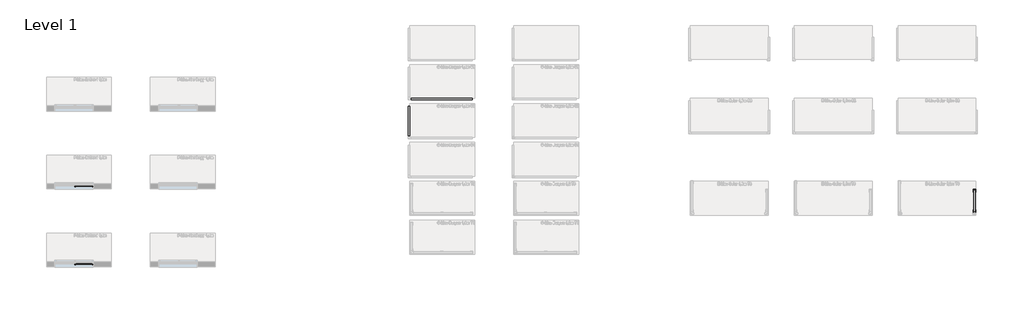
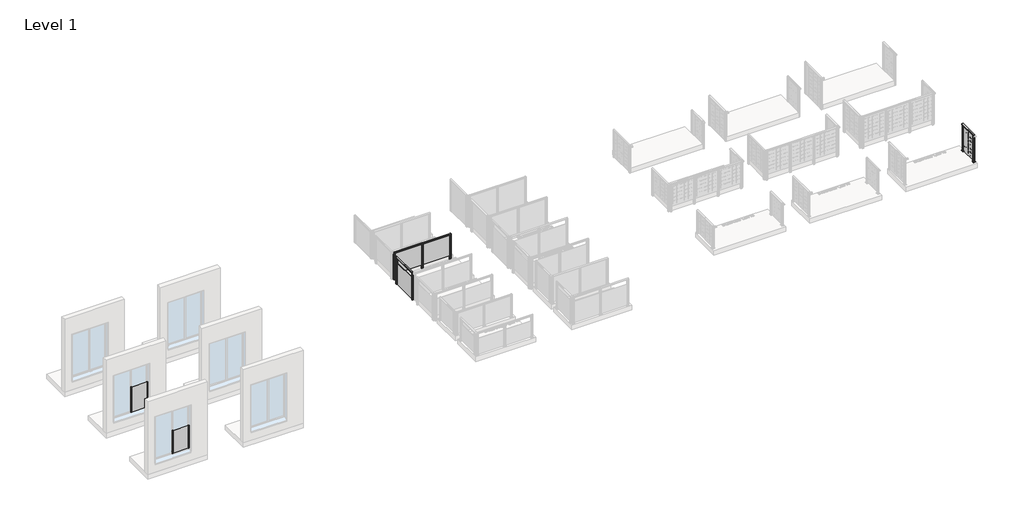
# One storey, part 27 of 66: 5 railings.
"""IFC4 building model written with IfcOpenShell, lengths in millimetres."""

from ifc_helpers import new_model, si_unit, point, frame, frame_2d, origin, origin_with_axes, place, context, project, spatial, polyline, circle_curve, trimmed, segment, composite_curve, outline, extrude, transform, mapped, element, save
from components import railing_4f81313c, railing_7a961b98

model = new_model("IFC4")

# Units and contexts
model_context = context("Model", 3, world=origin())
ifc_project = project(units=[si_unit("LENGTHUNIT", "METRE", prefix="MILLI")], contexts=[model_context])

# Site, building, storey
site = spatial("IfcSite", under=ifc_project)
building = spatial("IfcBuilding", under=site)
storey = spatial("IfcBuildingStorey", under=building, Name="Level 1", Elevation=0.0)

# Railings
placement = place(None, origin())
element("IfcRailing", 1, ObjectType="G-Line Bergen 1,0m S2", at=placement, inside=storey, context=model_context, shape_type="SweptSolid", body=[
    extrude(outline(composite_curve([segment(trimmed(circle_curve(frame_2d((942.6785502, 4465.8109342)), 57.3235687), [point((994.1390059, 4491.0658945))], [point((994.1342258, 4440.5462362))], False, "CARTESIAN"), True, "CONTINUOUS"), segment(polyline([(994.1342258, 4440.5462362), (967.0235023, 4440.5462362), (966.4415706, 4441.128168), (965.8194895, 4440.5060869), (957.2498847, 4440.5060869), (957.2498847, 4442.3110398), (980.4998829, 4442.3110398), (980.4998829, 4489.306086), (957.2498847, 4489.306086), (957.2498847, 4491.0658945), (965.9694895, 4491.0658945), (966.5842725, 4490.4511115), (967.1990555, 4491.0658945), (994.1390059, 4491.0658945)]), True, "CONTINUOUS")], self_intersect=False)), frame((0.0, 23.8815979, 0.0), z_axis=(0.0, 1.0, 0.0), x_axis=(0.0, 0.0, 1.0)), (0.0, 0.0, 1.0), 1195.0),
    extrude(outline(polyline([(4465.6306934, 1218.8815979), (4467.4943763, 1218.8815979), (4467.4943763, 23.8815979), (4465.6306934, 23.8815979), (4465.6306934, 1218.8815979)])), frame((0.0, 0.0, -200.0), z_axis=(0.0, 0.0, 1.0), x_axis=(1.0, 0.0, 0.0)), (0.0, 0.0, 1.0), 1.1703418),
    extrude(outline(polyline([(4462.1463105, 1218.8815979), (4470.9063105, 1218.8815979), (4470.9063105, 23.8815979), (4462.1463105, 23.8815979), (4462.1463105, 1218.8815979)])), frame((0.0, 0.0, -200.0), z_axis=(0.0, 0.0, 1.0), x_axis=(1.0, 0.0, 0.0)), (0.0, 0.0, 1.0), 945.0),
    extrude(outline(polyline([(4470.8721725, 23.883191), (4470.8747497, 41.3831908), (4462.1147498, 41.3844809), (4462.1121726, 23.8844811), (4444.0573652, 23.88714), (4444.0616532, 53.004127), (4444.9400753, 53.8822904), (4444.021743, 54.9201583), (4444.0260089, 83.8871452), (4462.1210087, 83.8844804), (4462.1184315, 66.3844806), (4470.8784314, 66.3831905), (4470.8810086, 83.8831903), (4488.9859597, 83.880524), (4488.9816865, 54.8640485), (4487.9932969, 53.87595), (4489.0214382, 52.8475058), (4489.0171723, 23.8805188), (4470.8721725, 23.883191)])), frame((0.0, 0.0, -202.0233958), z_axis=(0.0, 0.0, 1.0), x_axis=(1.0, 0.0, 0.0)), (0.0, 0.0, 1.0), 2.0),
    extrude(outline(composite_curve([segment(trimmed(circle_curve(frame_2d((0.0, 12.0)), 12.0), [point((0.0, 23.9999999))], [point((0.0, 0.0))], False, "CARTESIAN"), True, "CONTINUOUS"), segment(trimmed(circle_curve(frame_2d((0.0, 12.0)), 12.0), [point((0.0, 0.0))], [point((0.0, 23.9999999))], False, "CARTESIAN"), True, "CONTINUOUS")], self_intersect=False)), frame((4444.0668454, 65.8906355, -175.0), z_axis=(-0.9999999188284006, 0.0004029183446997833, 0.0), x_axis=(0.0, 0.0, -1.0)), (0.0, 0.0, 1.0), 3.0757477),
    extrude(outline(composite_curve([segment(trimmed(circle_curve(frame_2d((0.0, 12.0)), 12.0), [point((0.0, 23.9999999))], [point((0.0, 0.0))], False, "CARTESIAN"), True, "CONTINUOUS"), segment(trimmed(circle_curve(frame_2d((0.0, 12.0)), 12.0), [point((0.0, 0.0))], [point((0.0, 23.9999999))], False, "CARTESIAN"), True, "CONTINUOUS")], self_intersect=False)), frame((4444.0668454, 65.8906355, -50.0), z_axis=(-0.9999999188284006, 0.0004029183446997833, 0.0), x_axis=(0.0, 0.0, -1.0)), (0.0, 0.0, 1.0), 3.0757477),
    extrude(outline(polyline([(4470.8721725, 23.883191), (4470.8747497, 41.3831908), (4462.1147498, 41.3844809), (4462.1121726, 23.8844811), (4444.0573652, 23.88714), (4444.0616532, 53.004127), (4444.9400753, 53.8822904), (4444.021743, 54.9201583), (4444.0260089, 83.8871452), (4462.1210087, 83.8844804), (4462.1184315, 66.3844806), (4470.8784314, 66.3831905), (4470.8810086, 83.8831903), (4488.9859597, 83.880524), (4488.9816865, 54.8640485), (4487.9932969, 53.87595), (4489.0214382, 52.8475058), (4489.0171723, 23.8805188), (4470.8721725, 23.883191)]), holes=[polyline([(4446.0202949, 62.6808129), (4446.0202949, 45.0868512), (4487.0228863, 45.0868512), (4487.0228863, 62.6808129), (4446.0202949, 62.6808129)]), polyline([(4472.878181, 81.8808127), (4472.878181, 64.682896), (4487.0257139, 64.682896), (4487.0257139, 81.8808127), (4472.878181, 81.8808127)]), polyline([(4446.0202949, 81.884775), (4446.0202949, 64.6868513), (4460.1207142, 64.6868513), (4460.1207142, 81.884775), (4446.0202949, 81.884775)]), polyline([(4472.872467, 43.0808132), (4472.872467, 25.8828965), (4487.0199999, 25.8828965), (4487.0199999, 43.0808132), (4472.872467, 43.0808132)]), polyline([(4445.9674673, 43.0847754), (4445.9674673, 25.8868587), (4460.1150002, 25.8868587), (4460.1150002, 43.0847754), (4445.9674673, 43.0847754)])]), frame((0.0, 0.0, -200.0), z_axis=(0.0, 0.0, 1.0), x_axis=(1.0, 0.0, 0.0)), (0.0, 0.0, 1.0), 1181.0),
    extrude(outline(polyline([(4470.8721725, 1158.883191), (4470.8747497, 1176.3831908), (4462.1147498, 1176.3844809), (4462.1121726, 1158.8844811), (4444.0573652, 1158.88714), (4444.0616532, 1188.004127), (4444.9400753, 1188.8822904), (4444.021743, 1189.9201583), (4444.0260089, 1218.8871452), (4462.1210087, 1218.8844804), (4462.1184315, 1201.3844806), (4470.8784314, 1201.3831905), (4470.8810086, 1218.8831903), (4488.9859597, 1218.880524), (4488.9816865, 1189.8640485), (4487.9932969, 1188.87595), (4489.0214382, 1187.8475058), (4489.0171723, 1158.8805188), (4470.8721725, 1158.883191)])), frame((0.0, 0.0, -202.0233958), z_axis=(0.0, 0.0, 1.0), x_axis=(1.0, 0.0, 0.0)), (0.0, 0.0, 1.0), 2.0),
    extrude(outline(composite_curve([segment(trimmed(circle_curve(frame_2d((0.0, 12.0)), 12.0), [point((0.0, 23.9999999))], [point((0.0, 0.0))], False, "CARTESIAN"), True, "CONTINUOUS"), segment(trimmed(circle_curve(frame_2d((0.0, 12.0)), 12.0), [point((0.0, 0.0))], [point((0.0, 23.9999999))], False, "CARTESIAN"), True, "CONTINUOUS")], self_intersect=False)), frame((4444.0668454, 1200.8906355, -175.0), z_axis=(-0.9999999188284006, 0.0004029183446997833, 0.0), x_axis=(0.0, 0.0, -1.0)), (0.0, 0.0, 1.0), 3.0757477),
    extrude(outline(composite_curve([segment(trimmed(circle_curve(frame_2d((0.0, 12.0)), 12.0), [point((0.0, 23.9999999))], [point((0.0, 0.0))], False, "CARTESIAN"), True, "CONTINUOUS"), segment(trimmed(circle_curve(frame_2d((0.0, 12.0)), 12.0), [point((0.0, 0.0))], [point((0.0, 23.9999999))], False, "CARTESIAN"), True, "CONTINUOUS")], self_intersect=False)), frame((4444.0668454, 1200.8906355, -50.0), z_axis=(-0.9999999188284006, 0.0004029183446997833, 0.0), x_axis=(0.0, 0.0, -1.0)), (0.0, 0.0, 1.0), 3.0757477),
    extrude(outline(polyline([(4470.8721725, 1158.883191), (4470.8747497, 1176.3831908), (4462.1147498, 1176.3844809), (4462.1121726, 1158.8844811), (4444.0573652, 1158.88714), (4444.0616532, 1188.004127), (4444.9400753, 1188.8822904), (4444.021743, 1189.9201583), (4444.0260089, 1218.8871452), (4462.1210087, 1218.8844804), (4462.1184315, 1201.3844806), (4470.8784314, 1201.3831905), (4470.8810086, 1218.8831903), (4488.9859597, 1218.880524), (4488.9816865, 1189.8640485), (4487.9932969, 1188.87595), (4489.0214382, 1187.8475058), (4489.0171723, 1158.8805188), (4470.8721725, 1158.883191)]), holes=[polyline([(4446.0202949, 1197.6808129), (4446.0202949, 1180.0868512), (4487.0228863, 1180.0868512), (4487.0228863, 1197.6808129), (4446.0202949, 1197.6808129)]), polyline([(4472.878181, 1216.8808127), (4472.878181, 1199.682896), (4487.0257139, 1199.682896), (4487.0257139, 1216.8808127), (4472.878181, 1216.8808127)]), polyline([(4446.0202949, 1216.884775), (4446.0202949, 1199.6868513), (4460.1207142, 1199.6868513), (4460.1207142, 1216.884775), (4446.0202949, 1216.884775)]), polyline([(4472.872467, 1178.0808132), (4472.872467, 1160.8828965), (4487.0199999, 1160.8828965), (4487.0199999, 1178.0808132), (4472.872467, 1178.0808132)]), polyline([(4445.9674673, 1178.0847754), (4445.9674673, 1160.8868587), (4460.1150002, 1160.8868587), (4460.1150002, 1178.0847754), (4445.9674673, 1178.0847754)])]), frame((0.0, 0.0, -200.0), z_axis=(0.0, 0.0, 1.0), x_axis=(1.0, 0.0, 0.0)), (0.0, 0.0, 1.0), 1181.0),
])
element("IfcRailing", 2, ObjectType="G-Line Bergen 1,0m S3", at=placement, inside=storey, context=model_context, shape_type="SweptSolid", body=[
    extrude(outline(composite_curve([segment(polyline([(1513.4211819, 994.1390059), (1513.4211819, 967.1990555), (1512.8063989, 966.5842725), (1513.4211819, 965.9694895), (1513.4211819, 957.2498847), (1511.6613734, 957.2498847), (1511.6613734, 980.4998829), (1464.6663272, 980.4998829), (1464.6663272, 957.2498847), (1462.8613743, 957.2498847), (1462.8613743, 965.8194895), (1463.4834554, 966.4415706), (1462.9015237, 967.0235023), (1462.9015237, 994.1342258)]), True, "CONTINUOUS"), segment(trimmed(circle_curve(frame_2d((1488.1662216, 942.6785502)), 57.3235687), [point((1462.9015237, 994.1342258))], [point((1513.4211819, 994.1390059))], False, "CARTESIAN"), True, "CONTINUOUS")], self_intersect=False)), frame((4501.5263105, 0.0, 0.0), z_axis=(1.0, 0.0, 0.0), x_axis=(0.0, 1.0, 0.0)), (0.0, 0.0, 1.0), 2395.0),
    extrude(outline(polyline([(4501.5263105, 1484.5015979), (4501.5263105, 1493.2615979), (6896.5263105, 1493.2615979), (6896.5263105, 1484.5015979), (4501.5263105, 1484.5015979)])), frame((0.0, 0.0, 28.0), z_axis=(0.0, 0.0, 1.0), x_axis=(1.0, 0.0, 0.0)), (0.0, 0.0, 1.0), 952.0),
    extrude(outline(polyline([(5729.0247174, 1493.2274599), (5711.5247176, 1493.2300371), (5711.5234275, 1484.4700372), (5729.0234273, 1484.46746), (5729.0207684, 1466.4126526), (5699.9037815, 1466.4169406), (5699.025618, 1467.2953627), (5697.9877501, 1466.3770304), (5669.0207632, 1466.3812963), (5669.023428, 1484.4762961), (5686.5234278, 1484.4737189), (5686.5247179, 1493.2337188), (5669.0247181, 1493.236296), (5669.0273844, 1511.3412471), (5698.0438599, 1511.3369739), (5699.0319584, 1510.3485843), (5700.0604026, 1511.3767256), (5729.0273896, 1511.3724597), (5729.0247174, 1493.2274599)])), frame((0.0, 0.0, -202.0233958), z_axis=(0.0, 0.0, 1.0), x_axis=(1.0, 0.0, 0.0)), (0.0, 0.0, 1.0), 2.0),
    extrude(outline(composite_curve([segment(trimmed(circle_curve(frame_2d((0.0, 12.0000001)), 12.0), [point((0.0, 24.0))], [point((0.0, 0.0))], False, "CARTESIAN"), True, "CONTINUOUS"), segment(trimmed(circle_curve(frame_2d((0.0, 12.0000001)), 12.0), [point((0.0, 0.0))], [point((0.0, 24.0))], False, "CARTESIAN"), True, "CONTINUOUS")], self_intersect=False)), frame((5687.0160336, 1463.3463854, -175.0), z_axis=(0.00040291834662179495, 0.9999999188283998, 0.0), x_axis=(0.0, 0.0, 1.0)), (0.0, 0.0, 1.0), 3.0757477),
    extrude(outline(composite_curve([segment(trimmed(circle_curve(frame_2d((0.0, 12.0000001)), 12.0), [point((0.0, 24.0))], [point((0.0, 0.0))], False, "CARTESIAN"), True, "CONTINUOUS"), segment(trimmed(circle_curve(frame_2d((0.0, 12.0000001)), 12.0), [point((0.0, 0.0))], [point((0.0, 24.0))], False, "CARTESIAN"), True, "CONTINUOUS")], self_intersect=False)), frame((5687.0160336, 1463.3463854, -50.0), z_axis=(0.00040291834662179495, 0.9999999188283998, 0.0), x_axis=(0.0, 0.0, 1.0)), (0.0, 0.0, 1.0), 3.0757477),
    extrude(outline(polyline([(5729.0247174, 1493.2274599), (5711.5247176, 1493.2300371), (5711.5234275, 1484.4700372), (5729.0234273, 1484.46746), (5729.0207684, 1466.4126526), (5699.9037815, 1466.4169406), (5699.025618, 1467.2953627), (5697.9877501, 1466.3770304), (5669.0207632, 1466.3812963), (5669.023428, 1484.4762961), (5686.5234278, 1484.4737189), (5686.5247179, 1493.2337188), (5669.0247181, 1493.236296), (5669.0273844, 1511.3412471), (5698.0438599, 1511.3369739), (5699.0319584, 1510.3485843), (5700.0604026, 1511.3767256), (5729.0273896, 1511.3724597), (5729.0247174, 1493.2274599)]), holes=[polyline([(5690.2270955, 1468.3755823), (5707.8210573, 1468.3755823), (5707.8210573, 1509.3781738), (5690.2270955, 1509.3781738), (5690.2270955, 1468.3755823)]), polyline([(5671.0270957, 1495.2334684), (5688.2250124, 1495.2334684), (5688.2250124, 1509.3810013), (5671.0270957, 1509.3810013), (5671.0270957, 1495.2334684)]), polyline([(5671.0231335, 1468.3755823), (5688.2210571, 1468.3755823), (5688.2210571, 1482.4760016), (5671.0231335, 1482.4760016), (5671.0231335, 1468.3755823)]), polyline([(5709.8270953, 1495.2277544), (5727.025012, 1495.2277544), (5727.025012, 1509.3752873), (5709.8270953, 1509.3752873), (5709.8270953, 1495.2277544)]), polyline([(5709.823133, 1468.3227547), (5727.0210497, 1468.3227547), (5727.0210497, 1482.4702876), (5709.823133, 1482.4702876), (5709.823133, 1468.3227547)])]), frame((0.0, 0.0, -200.0), z_axis=(0.0, 0.0, 1.0), x_axis=(1.0, 0.0, 0.0)), (0.0, 0.0, 1.0), 1181.0),
    extrude(outline(polyline([(6896.5247174, 1493.2274599), (6879.0247176, 1493.2300371), (6879.0234275, 1484.4700372), (6896.5234273, 1484.46746), (6896.5207684, 1466.4126526), (6867.4037815, 1466.4169406), (6866.525618, 1467.2953627), (6865.4877501, 1466.3770304), (6836.5207632, 1466.3812963), (6836.523428, 1484.4762961), (6854.0234278, 1484.4737189), (6854.0247179, 1493.2337188), (6836.5247181, 1493.236296), (6836.5273844, 1511.3412471), (6865.5438599, 1511.3369739), (6866.5319584, 1510.3485843), (6867.5604026, 1511.3767256), (6896.5273896, 1511.3724597), (6896.5247174, 1493.2274599)])), frame((0.0, 0.0, -202.0233958), z_axis=(0.0, 0.0, 1.0), x_axis=(1.0, 0.0, 0.0)), (0.0, 0.0, 1.0), 2.0),
    extrude(outline(composite_curve([segment(trimmed(circle_curve(frame_2d((0.0, 12.0000001)), 12.0), [point((0.0, 24.0))], [point((0.0, 0.0))], False, "CARTESIAN"), True, "CONTINUOUS"), segment(trimmed(circle_curve(frame_2d((0.0, 12.0000001)), 12.0), [point((0.0, 0.0))], [point((0.0, 24.0))], False, "CARTESIAN"), True, "CONTINUOUS")], self_intersect=False)), frame((6854.5160336, 1463.3463854, -175.0), z_axis=(0.00040291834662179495, 0.9999999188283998, 0.0), x_axis=(0.0, 0.0, 1.0)), (0.0, 0.0, 1.0), 3.0757477),
    extrude(outline(composite_curve([segment(trimmed(circle_curve(frame_2d((0.0, 12.0000001)), 12.0), [point((0.0, 24.0))], [point((0.0, 0.0))], False, "CARTESIAN"), True, "CONTINUOUS"), segment(trimmed(circle_curve(frame_2d((0.0, 12.0000001)), 12.0), [point((0.0, 0.0))], [point((0.0, 24.0))], False, "CARTESIAN"), True, "CONTINUOUS")], self_intersect=False)), frame((6854.5160336, 1463.3463854, -50.0), z_axis=(0.00040291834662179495, 0.9999999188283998, 0.0), x_axis=(0.0, 0.0, 1.0)), (0.0, 0.0, 1.0), 3.0757477),
    extrude(outline(polyline([(6896.5247174, 1493.2274599), (6879.0247176, 1493.2300371), (6879.0234275, 1484.4700372), (6896.5234273, 1484.46746), (6896.5207684, 1466.4126526), (6867.4037815, 1466.4169406), (6866.525618, 1467.2953627), (6865.4877501, 1466.3770304), (6836.5207632, 1466.3812963), (6836.523428, 1484.4762961), (6854.0234278, 1484.4737189), (6854.0247179, 1493.2337188), (6836.5247181, 1493.236296), (6836.5273844, 1511.3412471), (6865.5438599, 1511.3369739), (6866.5319584, 1510.3485843), (6867.5604026, 1511.3767256), (6896.5273896, 1511.3724597), (6896.5247174, 1493.2274599)]), holes=[polyline([(6857.7270955, 1468.3755823), (6875.3210573, 1468.3755823), (6875.3210573, 1509.3781737), (6857.7270955, 1509.3781737), (6857.7270955, 1468.3755823)]), polyline([(6838.5270957, 1495.2334684), (6855.7250124, 1495.2334684), (6855.7250124, 1509.3810013), (6838.5270957, 1509.3810013), (6838.5270957, 1495.2334684)]), polyline([(6838.5231335, 1468.3755823), (6855.7210571, 1468.3755823), (6855.7210571, 1482.4760016), (6838.5231335, 1482.4760016), (6838.5231335, 1468.3755823)]), polyline([(6877.3270953, 1495.2277544), (6894.525012, 1495.2277544), (6894.525012, 1509.3752873), (6877.3270953, 1509.3752873), (6877.3270953, 1495.2277544)]), polyline([(6877.323133, 1468.3227547), (6894.5210497, 1468.3227547), (6894.5210497, 1482.4702876), (6877.323133, 1482.4702876), (6877.323133, 1468.3227547)])]), frame((0.0, 0.0, -200.0), z_axis=(0.0, 0.0, 1.0), x_axis=(1.0, 0.0, 0.0)), (0.0, 0.0, 1.0), 1181.0),
    extrude(outline(polyline([(4561.5247174, 1493.2274599), (4544.0247176, 1493.2300371), (4544.0234275, 1484.4700372), (4561.5234273, 1484.46746), (4561.5207684, 1466.4126526), (4532.4037815, 1466.4169406), (4531.525618, 1467.2953627), (4530.4877501, 1466.3770304), (4501.5207632, 1466.3812963), (4501.523428, 1484.4762961), (4519.0234278, 1484.4737189), (4519.0247179, 1493.2337188), (4501.5247181, 1493.236296), (4501.5273844, 1511.3412471), (4530.5438599, 1511.3369739), (4531.5319584, 1510.3485843), (4532.5604026, 1511.3767256), (4561.5273896, 1511.3724597), (4561.5247174, 1493.2274599)])), frame((0.0, 0.0, -202.0233958), z_axis=(0.0, 0.0, 1.0), x_axis=(1.0, 0.0, 0.0)), (0.0, 0.0, 1.0), 2.0),
    extrude(outline(composite_curve([segment(trimmed(circle_curve(frame_2d((0.0, 12.0000001)), 12.0), [point((0.0, 24.0))], [point((0.0, 0.0))], False, "CARTESIAN"), True, "CONTINUOUS"), segment(trimmed(circle_curve(frame_2d((0.0, 12.0000001)), 12.0), [point((0.0, 0.0))], [point((0.0, 24.0))], False, "CARTESIAN"), True, "CONTINUOUS")], self_intersect=False)), frame((4519.5160336, 1463.3463854, -175.0), z_axis=(0.00040291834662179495, 0.9999999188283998, 0.0), x_axis=(0.0, 0.0, 1.0)), (0.0, 0.0, 1.0), 3.0757477),
    extrude(outline(composite_curve([segment(trimmed(circle_curve(frame_2d((0.0, 12.0000001)), 12.0), [point((0.0, 24.0))], [point((0.0, 0.0))], False, "CARTESIAN"), True, "CONTINUOUS"), segment(trimmed(circle_curve(frame_2d((0.0, 12.0000001)), 12.0), [point((0.0, 0.0))], [point((0.0, 24.0))], False, "CARTESIAN"), True, "CONTINUOUS")], self_intersect=False)), frame((4519.5160336, 1463.3463854, -50.0), z_axis=(0.00040291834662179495, 0.9999999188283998, 0.0), x_axis=(0.0, 0.0, 1.0)), (0.0, 0.0, 1.0), 3.0757477),
    extrude(outline(polyline([(4561.5247174, 1493.2274599), (4544.0247176, 1493.2300371), (4544.0234275, 1484.4700372), (4561.5234273, 1484.46746), (4561.5207684, 1466.4126526), (4532.4037815, 1466.4169406), (4531.525618, 1467.2953627), (4530.4877501, 1466.3770304), (4501.5207632, 1466.3812963), (4501.523428, 1484.4762961), (4519.0234278, 1484.4737189), (4519.0247179, 1493.2337188), (4501.5247181, 1493.236296), (4501.5273844, 1511.3412471), (4530.5438599, 1511.3369739), (4531.5319584, 1510.3485843), (4532.5604026, 1511.3767256), (4561.5273896, 1511.3724597), (4561.5247174, 1493.2274599)]), holes=[polyline([(4522.7270955, 1468.3755823), (4540.3210573, 1468.3755823), (4540.3210573, 1509.3781738), (4522.7270955, 1509.3781738), (4522.7270955, 1468.3755823)]), polyline([(4503.5270957, 1495.2334684), (4520.7250124, 1495.2334684), (4520.7250124, 1509.3810013), (4503.5270957, 1509.3810013), (4503.5270957, 1495.2334684)]), polyline([(4503.5231335, 1468.3755823), (4520.7210571, 1468.3755823), (4520.7210571, 1482.4760016), (4503.5231335, 1482.4760016), (4503.5231335, 1468.3755823)]), polyline([(4542.3270953, 1495.2277544), (4559.525012, 1495.2277544), (4559.525012, 1509.3752873), (4542.3270953, 1509.3752873), (4542.3270953, 1495.2277544)]), polyline([(4542.323133, 1468.3227547), (4559.5210497, 1468.3227547), (4559.5210497, 1482.4702876), (4542.323133, 1482.4702876), (4542.323133, 1468.3227547)])]), frame((0.0, 0.0, -200.0), z_axis=(0.0, 0.0, 1.0), x_axis=(1.0, 0.0, 0.0)), (0.0, 0.0, 1.0), 1181.0),
])
element("IfcRailing", 3, ObjectType="E-Line Solar 1,2m T3 4 columns of solar elements", at=placement, inside=storey, context=model_context, shape_type="SweptSolid", body=[
    extrude(outline(composite_curve([segment(trimmed(circle_curve(frame_2d((1142.6785502, 26235.8109342)), 57.3235687), [point((1194.1390059, 26261.0658945))], [point((1194.1342258, 26210.5462362))], False, "CARTESIAN"), True, "CONTINUOUS"), segment(polyline([(1194.1342258, 26210.5462362), (1167.0235023, 26210.5462362), (1166.4415706, 26211.128168), (1165.8194895, 26210.5060869), (1157.2498847, 26210.5060869), (1157.2498847, 26212.3110398), (1180.4998829, 26212.3110398), (1180.4998829, 26259.306086), (1157.2498847, 26259.306086), (1157.2498847, 26261.0658945), (1165.9694895, 26261.0658945), (1166.5842725, 26260.4511115), (1167.1990555, 26261.0658945), (1194.1390059, 26261.0658945)]), True, "CONTINUOUS")], self_intersect=False)), frame((0.0, -2851.1184021, 0.0), z_axis=(0.0, 1.0, 0.0), x_axis=(0.0, 0.0, 1.0)), (0.0, 0.0, 1.0), 840.0),
    extrude(outline(polyline([(26232.1463105, -2011.1184021), (26240.9063105, -2011.1184021), (26240.9063105, -2851.1184021), (26232.1463105, -2851.1184021), (26232.1463105, -2011.1184021)])), frame((0.0, 0.0, 40.0), z_axis=(0.0, 0.0, 1.0), x_axis=(1.0, 0.0, 0.0)), (0.0, 0.0, 1.0), 1140.0),
    extrude(outline(polyline([(0.0, 0.0), (-16.036927, 16.036927), (-16.036927, 139.963073), (0.0, 156.0), (123.9261459, 156.0), (139.963073, 139.963073), (139.963073, 16.036927), (123.9261459, 0.0), (0.0, 0.0)])), frame((26240.0263105, -2267.6184021, 1059.4156895), z_axis=(1.0, -5.7872079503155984e-12, 0.0), x_axis=(0.0, 0.0, -1.0)), (0.0, 0.0, 1.0), 1.0),
    extrude(outline(polyline([(0.0, 0.0), (-16.036927, 16.036927), (-16.036927, 139.963073), (0.0, 156.0), (123.9261459, 156.0), (139.963073, 139.963073), (139.963073, 16.036927), (123.9261459, 0.0), (0.0, 0.0)])), frame((26240.0263105, -2428.6184021, 1059.4156895), z_axis=(1.0, -5.7872079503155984e-12, 0.0), x_axis=(0.0, 0.0, -1.0)), (0.0, 0.0, 1.0), 1.0),
    extrude(outline(polyline([(0.0, 0.0), (-16.036927, 16.036927), (-16.036927, 139.963073), (0.0, 156.0), (123.9261459, 156.0), (139.963073, 139.963073), (139.963073, 16.036927), (123.9261459, 0.0), (0.0, 0.0)])), frame((26240.0263105, -2750.6184021, 1059.4156895), z_axis=(1.0, -5.7872079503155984e-12, 0.0), x_axis=(0.0, 0.0, -1.0)), (0.0, 0.0, 1.0), 1.0),
    extrude(outline(polyline([(0.0, 0.0), (-16.036927, 16.036927), (-16.036927, 139.963073), (0.0, 156.0), (123.9261459, 156.0), (139.963073, 139.963073), (139.963073, 16.036927), (123.9261459, 0.0), (0.0, 0.0)])), frame((26240.0263105, -2589.6184021, 1059.4156895), z_axis=(1.0, -5.7872079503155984e-12, 0.0), x_axis=(0.0, 0.0, -1.0)), (0.0, 0.0, 1.0), 1.0),
    extrude(outline(polyline([(0.0, 0.0), (-16.036927, 16.036927), (-16.036927, 139.963073), (0.0, 156.0), (123.9261459, 156.0), (139.963073, 139.963073), (139.963073, 16.036927), (123.9261459, 0.0), (0.0, 0.0)])), frame((26240.0263105, -2267.6184021, 898.4156895), z_axis=(1.0, -5.7872079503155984e-12, 0.0), x_axis=(0.0, 0.0, -1.0)), (0.0, 0.0, 1.0), 1.0),
    extrude(outline(polyline([(0.0, 0.0), (-16.036927, 16.036927), (-16.036927, 139.963073), (0.0, 156.0), (123.9261459, 156.0), (139.963073, 139.963073), (139.963073, 16.036927), (123.9261459, 0.0), (0.0, 0.0)])), frame((26240.0263105, -2267.6184021, 737.4156895), z_axis=(1.0, -5.7872079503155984e-12, 0.0), x_axis=(0.0, 0.0, -1.0)), (0.0, 0.0, 1.0), 1.0),
    extrude(outline(polyline([(0.0, 0.0), (-16.036927, 16.036927), (-16.036927, 139.963073), (0.0, 156.0), (123.9261459, 156.0), (139.963073, 139.963073), (139.963073, 16.036927), (123.9261459, 0.0), (0.0, 0.0)])), frame((26240.0263105, -2267.6184021, 576.4156895), z_axis=(1.0, -5.7872079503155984e-12, 0.0), x_axis=(0.0, 0.0, -1.0)), (0.0, 0.0, 1.0), 1.0),
    extrude(outline(polyline([(0.0, 0.0), (-16.036927, 16.036927), (-16.036927, 139.963073), (0.0, 156.0), (123.9261459, 156.0), (139.963073, 139.963073), (139.963073, 16.036927), (123.9261459, 0.0), (0.0, 0.0)])), frame((26240.0263105, -2267.6184021, 415.4156895), z_axis=(1.0, -5.7872079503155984e-12, 0.0), x_axis=(0.0, 0.0, -1.0)), (0.0, 0.0, 1.0), 1.0),
    extrude(outline(polyline([(0.0, 0.0), (-16.036927, 16.036927), (-16.036927, 139.963073), (0.0, 156.0), (123.9261459, 156.0), (139.963073, 139.963073), (139.963073, 16.036927), (123.9261459, 0.0), (0.0, 0.0)])), frame((26240.0263105, -2267.6184021, 254.4156895), z_axis=(1.0, -5.7872079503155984e-12, 0.0), x_axis=(0.0, 0.0, -1.0)), (0.0, 0.0, 1.0), 1.0),
    extrude(outline(polyline([(0.0, 0.0), (-16.036927, 16.036927), (-16.036927, 139.963073), (0.0, 156.0), (123.9261459, 156.0), (139.963073, 139.963073), (139.963073, 16.036927), (123.9261459, 0.0), (0.0, 0.0)])), frame((26240.0263105, -2428.6184021, 898.4156895), z_axis=(1.0, -5.7872079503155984e-12, 0.0), x_axis=(0.0, 0.0, -1.0)), (0.0, 0.0, 1.0), 1.0),
    extrude(outline(polyline([(0.0, 0.0), (-16.036927, 16.036927), (-16.036927, 139.963073), (0.0, 156.0), (123.9261459, 156.0), (139.963073, 139.963073), (139.963073, 16.036927), (123.9261459, 0.0), (0.0, 0.0)])), frame((26240.0263105, -2428.6184021, 737.4156895), z_axis=(1.0, -5.7872079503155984e-12, 0.0), x_axis=(0.0, 0.0, -1.0)), (0.0, 0.0, 1.0), 1.0),
    extrude(outline(polyline([(0.0, 0.0), (-16.036927, 16.036927), (-16.036927, 139.963073), (0.0, 156.0), (123.9261459, 156.0), (139.963073, 139.963073), (139.963073, 16.036927), (123.9261459, 0.0), (0.0, 0.0)])), frame((26240.0263105, -2428.6184021, 576.4156895), z_axis=(1.0, -5.7872079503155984e-12, 0.0), x_axis=(0.0, 0.0, -1.0)), (0.0, 0.0, 1.0), 1.0),
    extrude(outline(polyline([(0.0, 0.0), (-16.036927, 16.036927), (-16.036927, 139.963073), (0.0, 156.0), (123.9261459, 156.0), (139.963073, 139.963073), (139.963073, 16.036927), (123.9261459, 0.0), (0.0, 0.0)])), frame((26240.0263105, -2428.6184021, 415.4156895), z_axis=(1.0, -5.7872079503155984e-12, 0.0), x_axis=(0.0, 0.0, -1.0)), (0.0, 0.0, 1.0), 1.0),
    extrude(outline(polyline([(0.0, 0.0), (-16.036927, 16.036927), (-16.036927, 139.963073), (0.0, 156.0), (123.9261459, 156.0), (139.963073, 139.963073), (139.963073, 16.036927), (123.9261459, 0.0), (0.0, 0.0)])), frame((26240.0263105, -2428.6184021, 254.4156895), z_axis=(1.0, -5.7872079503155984e-12, 0.0), x_axis=(0.0, 0.0, -1.0)), (0.0, 0.0, 1.0), 1.0),
    extrude(outline(polyline([(0.0, 0.0), (-16.036927, 16.036927), (-16.036927, 139.963073), (0.0, 156.0), (123.9261459, 156.0), (139.963073, 139.963073), (139.963073, 16.036927), (123.9261459, 0.0), (0.0, 0.0)])), frame((26240.0263105, -2750.6184021, 898.4156895), z_axis=(1.0, -5.7872079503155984e-12, 0.0), x_axis=(0.0, 0.0, -1.0)), (0.0, 0.0, 1.0), 1.0),
    extrude(outline(polyline([(0.0, 0.0), (-16.036927, 16.036927), (-16.036927, 139.963073), (0.0, 156.0), (123.9261459, 156.0), (139.963073, 139.963073), (139.963073, 16.036927), (123.9261459, 0.0), (0.0, 0.0)])), frame((26240.0263105, -2750.6184021, 737.4156895), z_axis=(1.0, -5.7872079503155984e-12, 0.0), x_axis=(0.0, 0.0, -1.0)), (0.0, 0.0, 1.0), 1.0),
    extrude(outline(polyline([(0.0, 0.0), (-16.036927, 16.036927), (-16.036927, 139.963073), (0.0, 156.0), (123.9261459, 156.0), (139.963073, 139.963073), (139.963073, 16.036927), (123.9261459, 0.0), (0.0, 0.0)])), frame((26240.0263105, -2750.6184021, 576.4156895), z_axis=(1.0, -5.7872079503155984e-12, 0.0), x_axis=(0.0, 0.0, -1.0)), (0.0, 0.0, 1.0), 1.0),
    extrude(outline(polyline([(0.0, 0.0), (-16.036927, 16.036927), (-16.036927, 139.963073), (0.0, 156.0), (123.9261459, 156.0), (139.963073, 139.963073), (139.963073, 16.036927), (123.9261459, 0.0), (0.0, 0.0)])), frame((26240.0263105, -2750.6184021, 415.4156895), z_axis=(1.0, -5.7872079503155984e-12, 0.0), x_axis=(0.0, 0.0, -1.0)), (0.0, 0.0, 1.0), 1.0),
    extrude(outline(polyline([(0.0, 0.0), (-16.036927, 16.036927), (-16.036927, 139.963073), (0.0, 156.0), (123.9261459, 156.0), (139.963073, 139.963073), (139.963073, 16.036927), (123.9261459, 0.0), (0.0, 0.0)])), frame((26240.0263105, -2750.6184021, 254.4156895), z_axis=(1.0, -5.7872079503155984e-12, 0.0), x_axis=(0.0, 0.0, -1.0)), (0.0, 0.0, 1.0), 1.0),
    extrude(outline(polyline([(0.0, 0.0), (-16.036927, 16.036927), (-16.036927, 139.963073), (0.0, 156.0), (123.9261459, 156.0), (139.963073, 139.963073), (139.963073, 16.036927), (123.9261459, 0.0), (0.0, 0.0)])), frame((26240.0263105, -2589.6184021, 898.4156895), z_axis=(1.0, -5.7872079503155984e-12, 0.0), x_axis=(0.0, 0.0, -1.0)), (0.0, 0.0, 1.0), 1.0),
    extrude(outline(polyline([(0.0, 0.0), (-16.036927, 16.036927), (-16.036927, 139.963073), (0.0, 156.0), (123.9261459, 156.0), (139.963073, 139.963073), (139.963073, 16.036927), (123.9261459, 0.0), (0.0, 0.0)])), frame((26240.0263105, -2589.6184021, 737.4156895), z_axis=(1.0, -5.7872079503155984e-12, 0.0), x_axis=(0.0, 0.0, -1.0)), (0.0, 0.0, 1.0), 1.0),
    extrude(outline(polyline([(0.0, 0.0), (-16.036927, 16.036927), (-16.036927, 139.963073), (0.0, 156.0), (123.9261459, 156.0), (139.963073, 139.963073), (139.963073, 16.036927), (123.9261459, 0.0), (0.0, 0.0)])), frame((26240.0263105, -2589.6184021, 576.4156895), z_axis=(1.0, -5.7872079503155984e-12, 0.0), x_axis=(0.0, 0.0, -1.0)), (0.0, 0.0, 1.0), 1.0),
    extrude(outline(polyline([(0.0, 0.0), (-16.036927, 16.036927), (-16.036927, 139.963073), (0.0, 156.0), (123.9261459, 156.0), (139.963073, 139.963073), (139.963073, 16.036927), (123.9261459, 0.0), (0.0, 0.0)])), frame((26240.0263105, -2589.6184021, 415.4156895), z_axis=(1.0, -5.7872079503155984e-12, 0.0), x_axis=(0.0, 0.0, -1.0)), (0.0, 0.0, 1.0), 1.0),
    extrude(outline(polyline([(0.0, 0.0), (-16.036927, 16.036927), (-16.036927, 139.963073), (0.0, 156.0), (123.9261459, 156.0), (139.963073, 139.963073), (139.963073, 16.036927), (123.9261459, 0.0), (0.0, 0.0)])), frame((26240.0263105, -2589.6184021, 254.4156895), z_axis=(1.0, -5.7872079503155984e-12, 0.0), x_axis=(0.0, 0.0, -1.0)), (0.0, 0.0, 1.0), 1.0),
    extrude(outline(composite_curve([segment(trimmed(circle_curve(frame_2d((26266.5263105, -2781.1184021)), 11.9621755), [point((26278.488486, -2781.1184021))], [point((26254.5641351, -2781.1184021))], False, "CARTESIAN"), True, "CONTINUOUS"), segment(trimmed(circle_curve(frame_2d((26266.5263105, -2781.1184021)), 11.9621755), [point((26254.5641351, -2781.1184021))], [point((26278.488486, -2781.1184021))], False, "CARTESIAN"), True, "CONTINUOUS")], self_intersect=False)), frame((0.0, 0.0, 10.0), z_axis=(0.0, 0.0, 1.0), x_axis=(1.0, 0.0, 0.0)), (0.0, 0.0, 1.0), 5.0),
    extrude(outline(composite_curve([segment(trimmed(circle_curve(frame_2d((26206.5263105, -2781.1184021)), 11.9621755), [point((26218.488486, -2781.1184021))], [point((26194.5641351, -2781.1184021))], False, "CARTESIAN"), True, "CONTINUOUS"), segment(trimmed(circle_curve(frame_2d((26206.5263105, -2781.1184021)), 11.9621755), [point((26194.5641351, -2781.1184021))], [point((26218.488486, -2781.1184021))], False, "CARTESIAN"), True, "CONTINUOUS")], self_intersect=False)), frame((0.0, 0.0, 10.0), z_axis=(0.0, 0.0, 1.0), x_axis=(1.0, 0.0, 0.0)), (0.0, 0.0, 1.0), 5.0),
    extrude(outline(composite_curve([segment(trimmed(circle_curve(frame_2d((26266.5263105, -2861.1184021)), 11.9621755), [point((26278.488486, -2861.1184021))], [point((26254.5641351, -2861.1184021))], False, "CARTESIAN"), True, "CONTINUOUS"), segment(trimmed(circle_curve(frame_2d((26266.5263105, -2861.1184021)), 11.9621755), [point((26254.5641351, -2861.1184021))], [point((26278.488486, -2861.1184021))], False, "CARTESIAN"), True, "CONTINUOUS")], self_intersect=False)), frame((0.0, 0.0, 10.0), z_axis=(0.0, 0.0, 1.0), x_axis=(1.0, 0.0, 0.0)), (0.0, 0.0, 1.0), 5.0),
    extrude(outline(composite_curve([segment(trimmed(circle_curve(frame_2d((26206.5263105, -2861.1184021)), 11.9621755), [point((26218.488486, -2861.1184021))], [point((26194.5641351, -2861.1184021))], False, "CARTESIAN"), True, "CONTINUOUS"), segment(trimmed(circle_curve(frame_2d((26206.5263105, -2861.1184021)), 11.9621755), [point((26194.5641351, -2861.1184021))], [point((26218.488486, -2861.1184021))], False, "CARTESIAN"), True, "CONTINUOUS")], self_intersect=False)), frame((0.0, 0.0, 10.0), z_axis=(0.0, 0.0, 1.0), x_axis=(1.0, 0.0, 0.0)), (0.0, 0.0, 1.0), 5.0),
    extrude(outline(composite_curve([segment(polyline([(26196.5263105, -2766.1184021), (26276.5263105, -2766.1184021)]), True, "CONTINUOUS"), segment(trimmed(circle_curve(frame_2d((26276.5263105, -2771.1184021)), 5.0), [point((26276.5263105, -2766.1184021))], [point((26281.5263105, -2771.1184021))], False, "CARTESIAN"), True, "CONTINUOUS"), segment(polyline([(26281.5263105, -2771.1184021), (26281.5263105, -2871.1184021)]), True, "CONTINUOUS"), segment(trimmed(circle_curve(frame_2d((26276.5263105, -2871.1184021)), 5.0), [point((26281.5263105, -2871.1184021))], [point((26276.5263105, -2876.1184021))], False, "CARTESIAN"), True, "CONTINUOUS"), segment(polyline([(26276.5263105, -2876.1184021), (26196.5263105, -2876.1184021)]), True, "CONTINUOUS"), segment(trimmed(circle_curve(frame_2d((26196.5263105, -2871.1184021)), 5.0), [point((26196.5263105, -2876.1184021))], [point((26191.5263105, -2871.1184021))], False, "CARTESIAN"), True, "CONTINUOUS"), segment(polyline([(26191.5263105, -2871.1184021), (26191.5263105, -2771.1184021)]), True, "CONTINUOUS"), segment(trimmed(circle_curve(frame_2d((26196.5263105, -2771.1184021)), 5.0), [point((26191.5263105, -2771.1184021))], [point((26196.5263105, -2766.1184021))], False, "CARTESIAN"), True, "CONTINUOUS")], self_intersect=False), holes=[composite_curve([segment(trimmed(circle_curve(frame_2d((26206.5263105, -2781.1184021)), 6.25), [point((26212.7763105, -2781.1184021))], [point((26200.2763105, -2781.1184021))], True, "CARTESIAN"), True, "CONTINUOUS"), segment(trimmed(circle_curve(frame_2d((26206.5263105, -2781.1184021)), 6.25), [point((26200.2763105, -2781.1184021))], [point((26212.7763105, -2781.1184021))], True, "CARTESIAN"), True, "CONTINUOUS")], self_intersect=False), composite_curve([segment(trimmed(circle_curve(frame_2d((26266.5263105, -2781.1184021)), 6.25), [point((26272.7763105, -2781.1184021))], [point((26260.2763105, -2781.1184021))], True, "CARTESIAN"), True, "CONTINUOUS"), segment(trimmed(circle_curve(frame_2d((26266.5263105, -2781.1184021)), 6.25), [point((26260.2763105, -2781.1184021))], [point((26272.7763105, -2781.1184021))], True, "CARTESIAN"), True, "CONTINUOUS")], self_intersect=False), composite_curve([segment(trimmed(circle_curve(frame_2d((26266.5263105, -2861.1184021)), 6.25), [point((26272.7763105, -2861.1184021))], [point((26260.2763105, -2861.1184021))], True, "CARTESIAN"), True, "CONTINUOUS"), segment(trimmed(circle_curve(frame_2d((26266.5263105, -2861.1184021)), 6.25), [point((26260.2763105, -2861.1184021))], [point((26272.7763105, -2861.1184021))], True, "CARTESIAN"), True, "CONTINUOUS")], self_intersect=False), composite_curve([segment(trimmed(circle_curve(frame_2d((26206.5263105, -2861.1184021)), 6.25), [point((26212.7763105, -2861.1184021))], [point((26200.2763105, -2861.1184021))], True, "CARTESIAN"), True, "CONTINUOUS"), segment(trimmed(circle_curve(frame_2d((26206.5263105, -2861.1184021)), 6.25), [point((26200.2763105, -2861.1184021))], [point((26212.7763105, -2861.1184021))], True, "CARTESIAN"), True, "CONTINUOUS")], self_intersect=False)]), origin_with_axes(), (0.0, 0.0, 1.0), 10.0),
    extrude(outline(polyline([(26240.8721725, -2851.116809), (26240.8747497, -2833.6168092), (26232.1147498, -2833.6155191), (26232.1121726, -2851.1155189), (26214.0573652, -2851.11286), (26214.0616532, -2821.995873), (26214.9400753, -2821.1177096), (26214.021743, -2820.0798417), (26214.0260089, -2791.1128548), (26232.1210087, -2791.1155196), (26232.1184315, -2808.6155194), (26240.8784314, -2808.6168095), (26240.8810086, -2791.1168097), (26258.9859597, -2791.119476), (26258.9816865, -2820.1359515), (26257.9932969, -2821.12405), (26259.0214382, -2822.1524942), (26259.0171723, -2851.1194812), (26240.8721725, -2851.116809)]), holes=[polyline([(26216.0202949, -2812.3191871), (26216.0202949, -2829.9131488), (26257.0228863, -2829.9131488), (26257.0228863, -2812.3191871), (26216.0202949, -2812.3191871)]), polyline([(26242.878181, -2793.1191873), (26242.878181, -2810.317104), (26257.0257139, -2810.317104), (26257.0257139, -2793.1191873), (26242.878181, -2793.1191873)]), polyline([(26216.0202949, -2793.115225), (26216.0202949, -2810.3131487), (26230.1207142, -2810.3131487), (26230.1207142, -2793.115225), (26216.0202949, -2793.115225)]), polyline([(26242.872467, -2831.9191868), (26242.872467, -2849.1171035), (26257.0199999, -2849.1171035), (26257.0199999, -2831.9191868), (26242.872467, -2831.9191868)]), polyline([(26215.9674673, -2831.9152246), (26215.9674673, -2849.1131413), (26230.1150002, -2849.1131413), (26230.1150002, -2831.9152246), (26215.9674673, -2831.9152246)])]), frame((0.0, 0.0, 10.0), z_axis=(0.0, 0.0, 1.0), x_axis=(1.0, 0.0, 0.0)), (0.0, 0.0, 1.0), 1171.0),
    extrude(outline(composite_curve([segment(trimmed(circle_curve(frame_2d((26266.5263105, -2001.1184021)), 11.9621755), [point((26278.488486, -2001.1184021))], [point((26254.5641351, -2001.1184021))], False, "CARTESIAN"), True, "CONTINUOUS"), segment(trimmed(circle_curve(frame_2d((26266.5263105, -2001.1184021)), 11.9621755), [point((26254.5641351, -2001.1184021))], [point((26278.488486, -2001.1184021))], False, "CARTESIAN"), True, "CONTINUOUS")], self_intersect=False)), frame((0.0, 0.0, 10.0), z_axis=(0.0, 0.0, 1.0), x_axis=(1.0, 0.0, 0.0)), (0.0, 0.0, 1.0), 5.0),
    extrude(outline(composite_curve([segment(trimmed(circle_curve(frame_2d((26206.5263105, -2001.1184021)), 11.9621755), [point((26218.488486, -2001.1184021))], [point((26194.5641351, -2001.1184021))], False, "CARTESIAN"), True, "CONTINUOUS"), segment(trimmed(circle_curve(frame_2d((26206.5263105, -2001.1184021)), 11.9621755), [point((26194.5641351, -2001.1184021))], [point((26218.488486, -2001.1184021))], False, "CARTESIAN"), True, "CONTINUOUS")], self_intersect=False)), frame((0.0, 0.0, 10.0), z_axis=(0.0, 0.0, 1.0), x_axis=(1.0, 0.0, 0.0)), (0.0, 0.0, 1.0), 5.0),
    extrude(outline(composite_curve([segment(trimmed(circle_curve(frame_2d((26266.5263105, -2081.1184021)), 11.9621755), [point((26278.488486, -2081.1184021))], [point((26254.5641351, -2081.1184021))], False, "CARTESIAN"), True, "CONTINUOUS"), segment(trimmed(circle_curve(frame_2d((26266.5263105, -2081.1184021)), 11.9621755), [point((26254.5641351, -2081.1184021))], [point((26278.488486, -2081.1184021))], False, "CARTESIAN"), True, "CONTINUOUS")], self_intersect=False)), frame((0.0, 0.0, 10.0), z_axis=(0.0, 0.0, 1.0), x_axis=(1.0, 0.0, 0.0)), (0.0, 0.0, 1.0), 5.0),
    extrude(outline(composite_curve([segment(trimmed(circle_curve(frame_2d((26206.5263105, -2081.1184021)), 11.9621755), [point((26218.488486, -2081.1184021))], [point((26194.5641351, -2081.1184021))], False, "CARTESIAN"), True, "CONTINUOUS"), segment(trimmed(circle_curve(frame_2d((26206.5263105, -2081.1184021)), 11.9621755), [point((26194.5641351, -2081.1184021))], [point((26218.488486, -2081.1184021))], False, "CARTESIAN"), True, "CONTINUOUS")], self_intersect=False)), frame((0.0, 0.0, 10.0), z_axis=(0.0, 0.0, 1.0), x_axis=(1.0, 0.0, 0.0)), (0.0, 0.0, 1.0), 5.0),
    extrude(outline(composite_curve([segment(polyline([(26196.5263105, -1986.1184021), (26276.5263105, -1986.1184021)]), True, "CONTINUOUS"), segment(trimmed(circle_curve(frame_2d((26276.5263105, -1991.1184021)), 5.0), [point((26276.5263105, -1986.1184021))], [point((26281.5263105, -1991.1184021))], False, "CARTESIAN"), True, "CONTINUOUS"), segment(polyline([(26281.5263105, -1991.1184021), (26281.5263105, -2091.1184021)]), True, "CONTINUOUS"), segment(trimmed(circle_curve(frame_2d((26276.5263105, -2091.1184021)), 5.0), [point((26281.5263105, -2091.1184021))], [point((26276.5263105, -2096.1184021))], False, "CARTESIAN"), True, "CONTINUOUS"), segment(polyline([(26276.5263105, -2096.1184021), (26196.5263105, -2096.1184021)]), True, "CONTINUOUS"), segment(trimmed(circle_curve(frame_2d((26196.5263105, -2091.1184021)), 5.0), [point((26196.5263105, -2096.1184021))], [point((26191.5263105, -2091.1184021))], False, "CARTESIAN"), True, "CONTINUOUS"), segment(polyline([(26191.5263105, -2091.1184021), (26191.5263105, -1991.1184021)]), True, "CONTINUOUS"), segment(trimmed(circle_curve(frame_2d((26196.5263105, -1991.1184021)), 5.0), [point((26191.5263105, -1991.1184021))], [point((26196.5263105, -1986.1184021))], False, "CARTESIAN"), True, "CONTINUOUS")], self_intersect=False), holes=[composite_curve([segment(trimmed(circle_curve(frame_2d((26206.5263105, -2001.1184021)), 6.25), [point((26212.7763105, -2001.1184021))], [point((26200.2763105, -2001.1184021))], True, "CARTESIAN"), True, "CONTINUOUS"), segment(trimmed(circle_curve(frame_2d((26206.5263105, -2001.1184021)), 6.25), [point((26200.2763105, -2001.1184021))], [point((26212.7763105, -2001.1184021))], True, "CARTESIAN"), True, "CONTINUOUS")], self_intersect=False), composite_curve([segment(trimmed(circle_curve(frame_2d((26266.5263105, -2001.1184021)), 6.25), [point((26272.7763105, -2001.1184021))], [point((26260.2763105, -2001.1184021))], True, "CARTESIAN"), True, "CONTINUOUS"), segment(trimmed(circle_curve(frame_2d((26266.5263105, -2001.1184021)), 6.25), [point((26260.2763105, -2001.1184021))], [point((26272.7763105, -2001.1184021))], True, "CARTESIAN"), True, "CONTINUOUS")], self_intersect=False), composite_curve([segment(trimmed(circle_curve(frame_2d((26266.5263105, -2081.1184021)), 6.25), [point((26272.7763105, -2081.1184021))], [point((26260.2763105, -2081.1184021))], True, "CARTESIAN"), True, "CONTINUOUS"), segment(trimmed(circle_curve(frame_2d((26266.5263105, -2081.1184021)), 6.25), [point((26260.2763105, -2081.1184021))], [point((26272.7763105, -2081.1184021))], True, "CARTESIAN"), True, "CONTINUOUS")], self_intersect=False), composite_curve([segment(trimmed(circle_curve(frame_2d((26206.5263105, -2081.1184021)), 6.25), [point((26212.7763105, -2081.1184021))], [point((26200.2763105, -2081.1184021))], True, "CARTESIAN"), True, "CONTINUOUS"), segment(trimmed(circle_curve(frame_2d((26206.5263105, -2081.1184021)), 6.25), [point((26200.2763105, -2081.1184021))], [point((26212.7763105, -2081.1184021))], True, "CARTESIAN"), True, "CONTINUOUS")], self_intersect=False)]), origin_with_axes(), (0.0, 0.0, 1.0), 10.0),
    extrude(outline(polyline([(26240.8721725, -2071.116809), (26240.8747497, -2053.6168092), (26232.1147498, -2053.6155191), (26232.1121726, -2071.1155189), (26214.0573652, -2071.11286), (26214.0616532, -2041.995873), (26214.9400753, -2041.1177096), (26214.021743, -2040.0798417), (26214.0260089, -2011.1128548), (26232.1210087, -2011.1155196), (26232.1184315, -2028.6155194), (26240.8784314, -2028.6168095), (26240.8810086, -2011.1168097), (26258.9859597, -2011.119476), (26258.9816865, -2040.1359515), (26257.9932969, -2041.12405), (26259.0214382, -2042.1524942), (26259.0171723, -2071.1194812), (26240.8721725, -2071.116809)]), holes=[polyline([(26216.0202949, -2032.3191871), (26216.0202949, -2049.9131488), (26257.0228863, -2049.9131488), (26257.0228863, -2032.3191871), (26216.0202949, -2032.3191871)]), polyline([(26242.878181, -2013.1191873), (26242.878181, -2030.317104), (26257.0257139, -2030.317104), (26257.0257139, -2013.1191873), (26242.878181, -2013.1191873)]), polyline([(26216.0202949, -2013.115225), (26216.0202949, -2030.3131487), (26230.1207142, -2030.3131487), (26230.1207142, -2013.115225), (26216.0202949, -2013.115225)]), polyline([(26242.872467, -2051.9191868), (26242.872467, -2069.1171035), (26257.0199999, -2069.1171035), (26257.0199999, -2051.9191868), (26242.872467, -2051.9191868)]), polyline([(26215.9674673, -2051.9152246), (26215.9674673, -2069.1131413), (26230.1150002, -2069.1131413), (26230.1150002, -2051.9152246), (26215.9674673, -2051.9152246)])]), frame((0.0, 0.0, 10.0), z_axis=(0.0, 0.0, 1.0), x_axis=(1.0, 0.0, 0.0)), (0.0, 0.0, 1.0), 1171.0),
])
railing_shape = railing_4f81313c(model_context)
element("IfcRailing", 4, ObjectType="F-Line Gotland 1,0m", at=placement, inside=storey, context=model_context, shape_type="MappedRepresentation", body=[
    mapped(railing_shape, transform((0.0, 0.0, 0.0), x_axis=(1.0, 0.0, 0.0), y_axis=(0.0, 1.0, 0.0), z_axis=(0.0, 0.0, 1.0))),
])
railing_2_shape = railing_7a961b98(model_context)
element("IfcRailing", 5, ObjectType="F-Line Gotland 1,1m", at=placement, inside=storey, context=model_context, shape_type="MappedRepresentation", body=[
    mapped(railing_2_shape, transform((0.0, 0.0, 0.0), x_axis=(1.0, 0.0, 0.0), y_axis=(0.0, 1.0, 0.0), z_axis=(0.0, 0.0, 1.0))),
])

save(model, "model.ifc")
